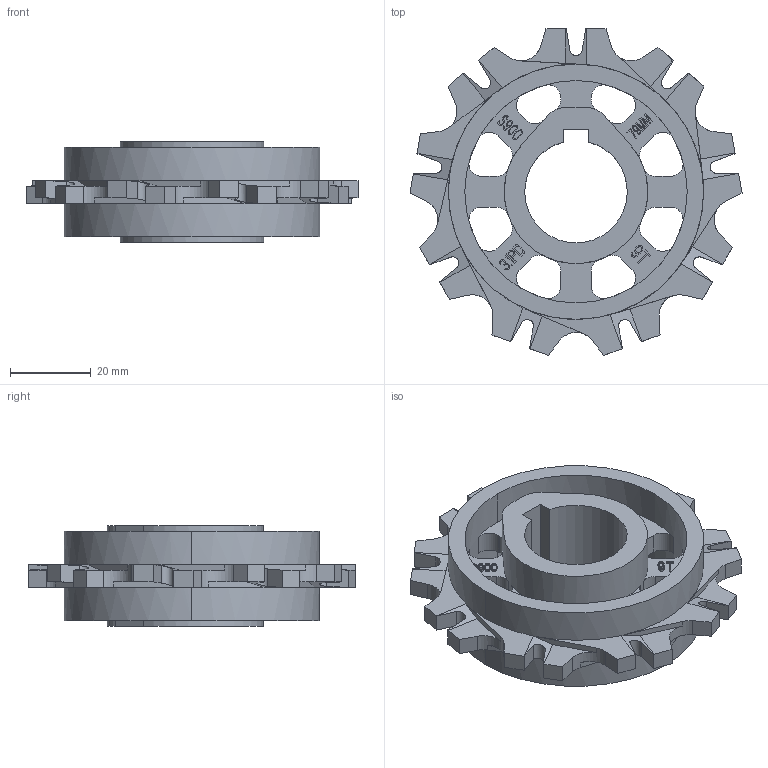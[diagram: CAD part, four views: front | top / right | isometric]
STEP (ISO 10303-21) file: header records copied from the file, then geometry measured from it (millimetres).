
FILE_DESCRIPTION((''),'2;1');
FILE_NAME('S900_SPROCKET_31X1_25_RND','2008-12-12T',('jmumphre'),(''),'PRO/ENGINEER BY PARAMETRIC TECHNOLOGY CORPORATION, 2008150','PRO/ENGINEER BY PARAMETRIC TECHNOLOGY CORPORATION, 2008150','');
FILE_SCHEMA(('CONFIG_CONTROL_DESIGN'));
Length unit declared in the file: inch
Products named in the file (1): S900_SPROCKET_31X1_25_RND
Bounding box: 82.27 x 81.02 x 24.89 mm (x, y, z)
Volume: 39365.9 mm3; surface area: 20817.2 mm2
Topology: 1 solids, 1 shells, 864 faces, 2496 edges, 1664 vertices
Faces by surface type: plane 804, cylinder 60
Entity records: 28561 total; most frequent: CARTESIAN_POINT 5625, ORIENTED_EDGE 4992, DIRECTION 4364, EDGE_CURVE 2496, VECTOR 2284, LINE 2284, VERTEX_POINT 1664, AXIS2_PLACEMENT_3D 1040
